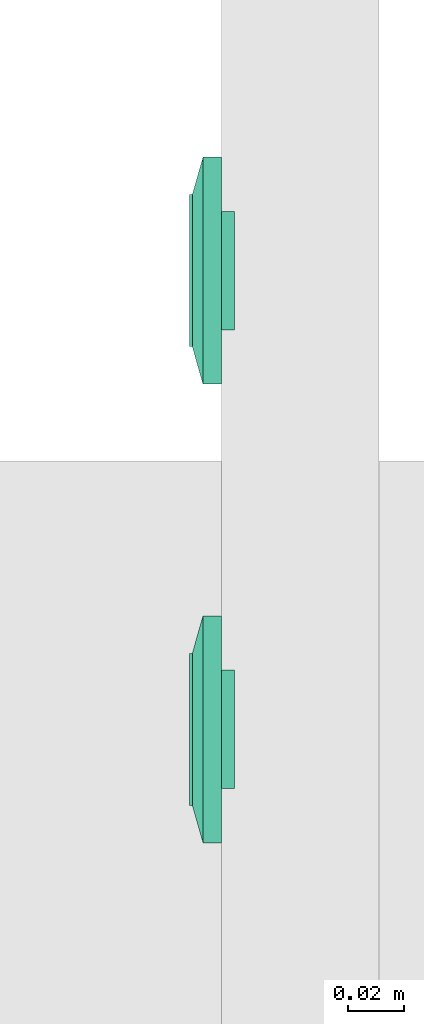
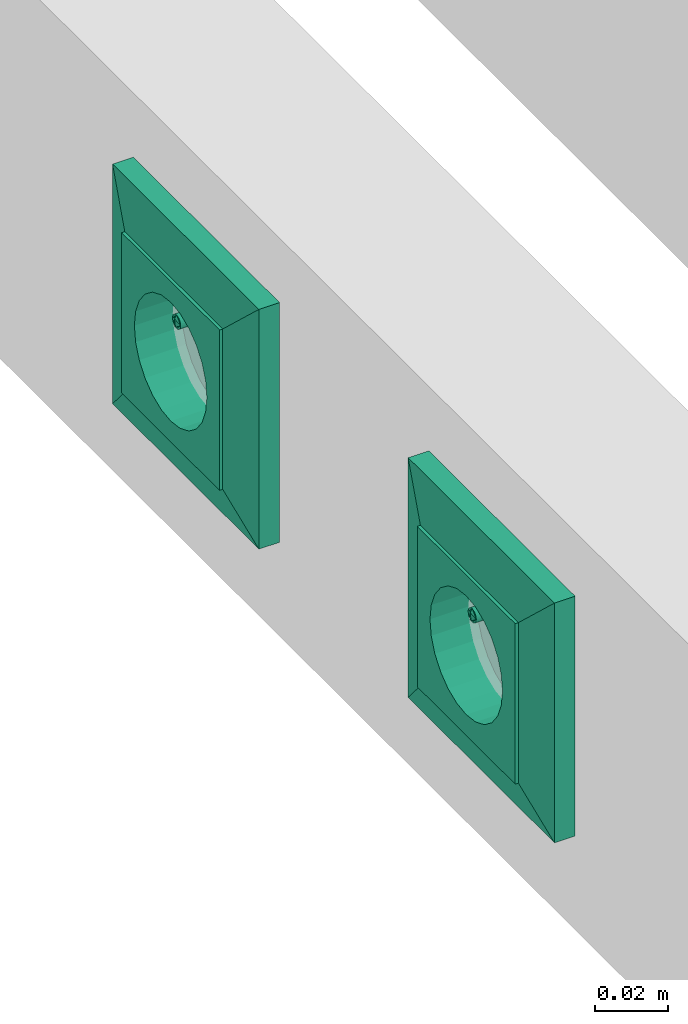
# One storey, part 48 of 166: 2 flow terminals.
"""IFC2X3 building model written with IfcOpenShell, lengths in metres."""

from ifc_helpers import new_model, entity, si_unit, converted_unit, derived_unit, direction, frame, origin, place, context, subcontext, project, spatial, face_set, surface_model, source, transform, mapped, type_object, type_shapes, element, save


model = new_model("IFC2X3")

# Units and contexts
model_context = context("Model", 3, precision=1e-05, world=origin(), true_north=direction((6.12303176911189e-17, 1.0)))
body_context = subcontext(model_context, "Body", "Model", "MODEL_VIEW")
ifc_project = project(units=[si_unit("LENGTHUNIT", "METRE"), si_unit("AREAUNIT", "SQUARE_METRE"), si_unit("VOLUMEUNIT", "CUBIC_METRE"), converted_unit("PLANEANGLEUNIT", "DEGREE", entity("IfcRatioMeasure", 0.0174532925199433), si_unit("PLANEANGLEUNIT", "RADIAN"), dimensions=[0, 0, 0, 0, 0, 0, 0]), si_unit("MASSUNIT", "GRAM", prefix="KILO"), derived_unit("MASSDENSITYUNIT", [(si_unit("MASSUNIT", "GRAM", prefix="KILO"), 1), (si_unit("LENGTHUNIT", "METRE"), -3)]), si_unit("TIMEUNIT", "SECOND"), si_unit("FREQUENCYUNIT", "HERTZ"), si_unit("THERMODYNAMICTEMPERATUREUNIT", "DEGREE_CELSIUS"), derived_unit("THERMALTRANSMITTANCEUNIT", [(si_unit("MASSUNIT", "GRAM", prefix="KILO"), 1), (si_unit("THERMODYNAMICTEMPERATUREUNIT", "KELVIN"), -1), (si_unit("TIMEUNIT", "SECOND"), -3)]), derived_unit("VOLUMETRICFLOWRATEUNIT", [(si_unit("LENGTHUNIT", "METRE"), 3), (si_unit("TIMEUNIT", "SECOND"), -1)]), si_unit("ELECTRICCURRENTUNIT", "AMPERE"), si_unit("ELECTRICVOLTAGEUNIT", "VOLT"), si_unit("POWERUNIT", "WATT"), si_unit("FORCEUNIT", "NEWTON"), si_unit("ILLUMINANCEUNIT", "LUX"), si_unit("LUMINOUSFLUXUNIT", "LUMEN"), si_unit("LUMINOUSINTENSITYUNIT", "CANDELA"), derived_unit("USERDEFINED", [(si_unit("MASSUNIT", "GRAM", prefix="KILO"), -1), (si_unit("LENGTHUNIT", "METRE"), -2), (si_unit("TIMEUNIT", "SECOND"), 3), (si_unit("LUMINOUSFLUXUNIT", "LUMEN"), 1)]), derived_unit("LINEARVELOCITYUNIT", [(si_unit("LENGTHUNIT", "METRE"), 1), (si_unit("TIMEUNIT", "SECOND"), -1)]), si_unit("PRESSUREUNIT", "PASCAL"), derived_unit("USERDEFINED", [(si_unit("LENGTHUNIT", "METRE"), -2), (si_unit("MASSUNIT", "GRAM", prefix="KILO"), 1), (si_unit("TIMEUNIT", "SECOND"), -2)])], contexts=[model_context])

# Site, building, storey
site_placement = place(None, origin())
site = spatial("IfcSite", under=ifc_project, at=site_placement, Name="Default", CompositionType="ELEMENT")
building_placement = place(site_placement, origin())
building = spatial("IfcBuilding", under=site, at=building_placement, CompositionType="ELEMENT")
storey_placement = place(building_placement, frame((0.0, 0.0, 4.27)))
storey = spatial("IfcBuildingStorey", under=building, at=storey_placement, Name="01", CompositionType="ELEMENT", Elevation=4.27)

# Flow terminals
light_fixture_type = type_object("IfcLightFixtureType", Name="PC IP20", PredefinedType="NOTDEFINED")
shared_shape = source(origin(), body_context, "Body", "SurfaceModel", [
    surface_model("IfcFaceBasedSurfaceModel", [(-0.00225000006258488, 0.0127499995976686, 0.00949633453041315), (0.0, 0.0104999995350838, 0.00949633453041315), (0.0, 0.0115376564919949, 0.0101656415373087), (0.0, 0.0139623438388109, 0.0101656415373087), (0.0, 0.0144589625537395, 0.00984531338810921), (0.0, 0.0121178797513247, 0.0102778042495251), (0.0, 0.0133821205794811, 0.0102778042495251), (0.0, 0.0127499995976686, 0.010399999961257), (0.0, 0.0149999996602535, 0.00949633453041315), (0.00225000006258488, 0.0127499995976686, 0.00949633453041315), (0.0, 0.0110410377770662, 0.00984531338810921), (0.0, 0.0127499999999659, 0.00949633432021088), (0.00225000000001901, 0.0127499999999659, 0.00949633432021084), (0.00217333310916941, 0.0121676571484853, 0.00949633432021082), (0.00194855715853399, 0.0116249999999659, 0.00949633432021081), (0.00159099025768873, 0.0111590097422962, 0.00949633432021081), (0.001125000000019, 0.010801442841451, 0.00949633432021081), (0.00058234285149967, 0.0105766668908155, 0.00949633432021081), (0.0, 0.0104999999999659, 0.00949633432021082), (-0.000582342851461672, 0.0105766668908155, 0.00949633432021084), (-0.001124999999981, 0.010801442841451, 0.00949633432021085), (-0.00159099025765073, 0.0111590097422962, 0.00949633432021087), (-0.00194855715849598, 0.011624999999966, 0.00949633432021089), (-0.0021733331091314, 0.0121676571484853, 0.00949633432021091), (-0.00224999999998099, 0.012749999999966, 0.00949633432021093), (-0.00217333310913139, 0.0133323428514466, 0.00949633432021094), (-0.00194855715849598, 0.013874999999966, 0.00949633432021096), (-0.00159099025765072, 0.0143409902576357, 0.00949633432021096), (-0.00112499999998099, 0.0146985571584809, 0.00949633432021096), (-0.00058234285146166, 0.0149233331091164, 0.00949633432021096), (0.0, 0.0149999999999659, 0.00949633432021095), (0.000582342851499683, 0.0149233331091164, 0.00949633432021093), (0.00112500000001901, 0.0146985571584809, 0.00949633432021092), (0.00159099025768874, 0.0143409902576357, 0.00949633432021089), (0.001948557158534, 0.0138749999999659, 0.00949633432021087), (0.00217333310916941, 0.0133323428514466, 0.00949633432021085), (0.00225000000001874, 0.0127499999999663, -0.00360000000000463), (0.00217333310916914, 0.0121676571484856, -0.00360000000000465), (0.00194855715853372, 0.0116249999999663, -0.00360000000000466), (0.00159099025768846, 0.0111590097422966, -0.00360000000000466), (0.00112500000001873, 0.0108014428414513, -0.00360000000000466), (0.000582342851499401, 0.0105766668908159, -0.00360000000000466), (0.0, 0.0104999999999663, -0.00360000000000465), (-0.000582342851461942, 0.0105766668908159, -0.00360000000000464), (-0.00112499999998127, 0.0108014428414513, -0.00360000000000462), (-0.001590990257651, 0.0111590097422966, -0.0036000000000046), (-0.00194855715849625, 0.0116249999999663, -0.00360000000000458), (-0.00217333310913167, 0.0121676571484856, -0.00360000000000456), (-0.00224999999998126, 0.0127499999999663, -0.00360000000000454), (-0.00217333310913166, 0.013332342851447, -0.00360000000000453), (-0.00194855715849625, 0.0138749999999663, -0.00360000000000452), (-0.00159099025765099, 0.014340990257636, -0.00360000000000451), (-0.00112499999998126, 0.0146985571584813, -0.00360000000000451), (-0.000582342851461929, 0.0149233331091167, -0.00360000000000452), (0.0, 0.0149999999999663, -0.00360000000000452), (0.000582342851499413, 0.0149233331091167, -0.00360000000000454), (0.00112500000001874, 0.0146985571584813, -0.00360000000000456), (0.00159099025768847, 0.014340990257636, -0.00360000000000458), (0.00194855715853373, 0.0138749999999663, -0.0036000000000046), (0.00217333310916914, 0.013332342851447, -0.00360000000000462), (0.0270000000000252, 0.026999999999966, 0.0113999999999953), (-0.0269999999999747, 0.026999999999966, 0.0113999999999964), (-0.0269999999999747, -0.0270000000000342, 0.0113999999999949), (0.0270000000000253, -0.0270000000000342, 0.0113999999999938), (-0.0199999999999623, 0.0, 0.0113999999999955), (-0.0193185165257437, -0.00517638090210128, 0.0113999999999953), (-0.0173205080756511, -0.0100000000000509, 0.0113999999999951), (-0.0141421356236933, -0.0141421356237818, 0.011399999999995), (-0.00999999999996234, -0.0173205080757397, 0.0113999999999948), (-0.00517638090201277, -0.0193185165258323, 0.0113999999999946), (0.0, -0.0200000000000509, 0.0113999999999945), (0.00517638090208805, -0.0193185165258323, 0.0113999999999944), (0.0100000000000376, -0.0173205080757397, 0.0113999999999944), (0.0141421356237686, -0.0141421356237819, 0.0113999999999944), (0.0173205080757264, -0.010000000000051, 0.0113999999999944), (0.0193185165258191, -0.00517638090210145, 0.0113999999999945), (0.0200000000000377, 0.0, 0.0113999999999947), (0.0193185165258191, 0.00517638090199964, 0.0113999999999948), (0.0173205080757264, 0.0099999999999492, 0.011399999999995), (0.0141421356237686, 0.0141421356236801, 0.0113999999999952), (0.0100000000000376, 0.0173205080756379, 0.0113999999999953), (0.00517638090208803, 0.0193185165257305, 0.0113999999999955), (0.0, 0.0199999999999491, 0.0113999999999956), (-0.00517638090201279, 0.0193185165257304, 0.0113999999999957), (-0.00999999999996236, 0.0173205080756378, 0.0113999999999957), (-0.0141421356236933, 0.01414213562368, 0.0113999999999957), (-0.0173205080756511, 0.00999999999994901, 0.0113999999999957), (-0.0193185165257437, 0.00517638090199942, 0.0113999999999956), (0.0270000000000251, 0.0269999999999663, 0.00199999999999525), (0.0270000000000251, -0.0270000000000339, 0.00199999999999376), (-0.0269999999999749, -0.0270000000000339, 0.00199999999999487), (-0.0269999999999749, 0.0269999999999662, 0.00199999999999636), (0.0210000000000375, 0.0, 0.00199999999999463), (0.0202844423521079, -0.00543519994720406, 0.00199999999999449), (0.0181865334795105, -0.0105000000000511, 0.0019999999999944), (0.0148492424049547, -0.0148492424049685, 0.00199999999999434), (0.0105000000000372, -0.0181865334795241, 0.00199999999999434), (0.0054351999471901, -0.0202844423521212, 0.00199999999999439), (0.0, -0.0210000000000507, 0.00199999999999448), (-0.00543519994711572, -0.020284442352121, 0.00199999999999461), (-0.0104999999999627, -0.0181865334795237, 0.00199999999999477), (-0.0148492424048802, -0.014849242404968, 0.00199999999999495), (-0.0181865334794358, -0.0105000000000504, 0.00199999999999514), (-0.020284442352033, -0.00543519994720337, 0.00199999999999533), (-0.0209999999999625, 0.0, 0.00199999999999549), (-0.0202844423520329, 0.0054351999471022, 0.00199999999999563), (-0.0181865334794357, 0.0104999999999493, 0.00199999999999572), (-0.01484924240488, 0.0148492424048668, 0.00199999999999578), (-0.0104999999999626, 0.0181865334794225, 0.00199999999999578), (-0.00543519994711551, 0.0202844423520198, 0.00199999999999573), (0.0, 0.0209999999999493, 0.00199999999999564), (0.00543519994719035, 0.0202844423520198, 0.00199999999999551), (0.0105000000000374, 0.0181865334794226, 0.00199999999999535), (0.0148492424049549, 0.0148492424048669, 0.00199999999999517), (0.0181865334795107, 0.0104999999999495, 0.00199999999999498), (0.0202844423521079, 0.00543519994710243, 0.00199999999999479), (0.0200000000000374, 0.0, -0.00360000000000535), (0.0193185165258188, -0.00517638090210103, -0.00360000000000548), (0.0173205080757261, -0.0100000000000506, -0.00360000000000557), (0.0141421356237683, -0.0141421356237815, -0.00360000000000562), (0.0100000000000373, -0.0173205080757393, -0.00360000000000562), (0.00517638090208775, -0.0193185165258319, -0.00360000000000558), (0.0, -0.0200000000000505, -0.00360000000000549), (-0.00517638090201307, -0.0193185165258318, -0.00360000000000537), (-0.00999999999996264, -0.0173205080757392, -0.00360000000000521), (-0.0141421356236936, -0.0141421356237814, -0.00360000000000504), (-0.0173205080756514, -0.0100000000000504, -0.00360000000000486), (-0.019318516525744, -0.00517638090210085, -0.00360000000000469), (-0.0199999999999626, 0.0, -0.00360000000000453), (-0.0193185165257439, 0.00517638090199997, -0.0036000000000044), (-0.0173205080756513, 0.00999999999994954, -0.00360000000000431), (-0.0141421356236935, 0.0141421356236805, -0.00360000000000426), (-0.00999999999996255, 0.0173205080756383, -0.00360000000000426), (-0.00517638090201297, 0.0193185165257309, -0.0036000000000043), (0.0, 0.0199999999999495, -0.00360000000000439), (0.00517638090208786, 0.0193185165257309, -0.00360000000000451), (0.0100000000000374, 0.0173205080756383, -0.00360000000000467), (0.0141421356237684, 0.0141421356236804, -0.00360000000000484), (0.0173205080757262, 0.0099999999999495, -0.00360000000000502), (0.0193185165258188, 0.00517638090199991, -0.00360000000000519), (-0.0123499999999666, 0.0, -0.00360000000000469), (-0.0122562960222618, -0.000711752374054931, -0.00360000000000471), (-0.0119815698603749, -0.00137500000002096, -0.00360000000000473), (-0.0115445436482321, -0.00194454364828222, -0.00360000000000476), (-0.0109749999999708, -0.00238156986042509, -0.00360000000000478), (-0.0103117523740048, -0.00265629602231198, -0.0036000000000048), (-0.00959999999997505, -0.00275000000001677, -0.00360000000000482), (-0.0088882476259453, -0.00265629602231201, -0.00360000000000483), (-0.00822499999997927, -0.00238156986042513, -0.00360000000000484), (-0.00765545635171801, -0.00194454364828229, -0.00360000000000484), (-0.00721843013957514, -0.00137500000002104, -0.00360000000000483), (-0.00694370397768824, -0.000711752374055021, -0.00360000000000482), (-0.00684999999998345, 0.0, -0.0036000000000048), (-0.00694370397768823, 0.000711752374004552, -0.00360000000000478), (-0.00721843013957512, 0.00137499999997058, -0.00360000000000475), (-0.00765545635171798, 0.00194454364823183, -0.00360000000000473), (-0.00822499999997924, 0.00238156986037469, -0.0036000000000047), (-0.00888824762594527, 0.00265629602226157, -0.00360000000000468), (-0.00959999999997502, 0.00274999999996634, -0.00360000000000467), (-0.0103117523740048, 0.00265629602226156, -0.00360000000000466), (-0.0109749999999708, 0.00238156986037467, -0.00360000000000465), (-0.011544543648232, 0.00194454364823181, -0.00360000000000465), (-0.0119815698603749, 0.00137499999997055, -0.00360000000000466), (-0.0122562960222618, 0.000711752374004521, -0.00360000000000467), (0.00685000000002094, 0.0, -0.00360000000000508), (0.0069437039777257, -0.00071175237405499, -0.0036000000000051), (0.00721843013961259, -0.00137500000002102, -0.00360000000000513), (0.00765545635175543, -0.00194454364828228, -0.00360000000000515), (0.00822500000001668, -0.00238156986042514, -0.00360000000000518), (0.00888824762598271, -0.00265629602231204, -0.0036000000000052), (0.00960000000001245, -0.00275000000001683, -0.00360000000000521), (0.0103117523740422, -0.00265629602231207, -0.00360000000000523), (0.0109750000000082, -0.00238156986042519, -0.00360000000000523), (0.0115445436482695, -0.00194454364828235, -0.00360000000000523), (0.0119815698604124, -0.0013750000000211, -0.00360000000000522), (0.0122562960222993, -0.00071175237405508, -0.00360000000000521), (0.012350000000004, 0.0, -0.00360000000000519), (0.0122562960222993, 0.000711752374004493, -0.00360000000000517), (0.0119815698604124, 0.00137499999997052, -0.00360000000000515), (0.0115445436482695, 0.00194454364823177, -0.00360000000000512), (0.0109750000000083, 0.00238156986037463, -0.0036000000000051), (0.0103117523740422, 0.00265629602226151, -0.00360000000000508), (0.00960000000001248, 0.00274999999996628, -0.00360000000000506), (0.00888824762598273, 0.0026562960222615, -0.00360000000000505), (0.0082250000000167, 0.00238156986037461, -0.00360000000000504), (0.00765545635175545, 0.00194454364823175, -0.00360000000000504), (0.0072184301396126, 0.00137499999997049, -0.00360000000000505), (0.00694370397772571, 0.000711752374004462, -0.00360000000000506), (0.0210000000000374, 0.0, -0.00460000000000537), (0.0202844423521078, -0.00543519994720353, -0.00460000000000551), (0.0181865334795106, -0.0105000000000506, -0.0046000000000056), (0.0148492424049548, -0.0148492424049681, -0.00460000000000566), (0.0105000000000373, -0.0181865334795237, -0.00460000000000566), (0.00543519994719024, -0.0202844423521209, -0.00460000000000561), (0.0, -0.0210000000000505, -0.00460000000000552), (-0.00543519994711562, -0.0202844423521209, -0.00460000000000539), (-0.0104999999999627, -0.0181865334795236, -0.00460000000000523), (-0.0148492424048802, -0.0148492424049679, -0.00460000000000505), (-0.0181865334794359, -0.0105000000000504, -0.00460000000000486), (-0.0202844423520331, -0.00543519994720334, -0.00460000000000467), (-0.0209999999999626, 0.0, -0.00460000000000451), (-0.020284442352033, 0.00543519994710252, -0.00460000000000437), (-0.0181865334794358, 0.0104999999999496, -0.00460000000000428), (-0.0148492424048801, 0.0148492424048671, -0.00460000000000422), (-0.0104999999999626, 0.0181865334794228, -0.00460000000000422), (-0.00543519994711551, 0.02028444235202, -0.00460000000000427), (0.0, 0.0209999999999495, -0.00460000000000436), (0.00543519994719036, 0.02028444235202, -0.00460000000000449), (0.0105000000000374, 0.0181865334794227, -0.00460000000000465), (0.0148492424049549, 0.014849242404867, -0.00460000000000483), (0.0181865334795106, 0.0104999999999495, -0.00460000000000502), (0.0202844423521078, 0.00543519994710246, -0.00460000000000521), (-0.00684999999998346, 0.0, -0.0046000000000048), (-0.00694370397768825, 0.000711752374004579, -0.00460000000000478), (-0.00721843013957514, 0.00137499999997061, -0.00460000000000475), (-0.007655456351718, 0.00194454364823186, -0.00460000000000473), (-0.00822499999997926, 0.00238156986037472, -0.0046000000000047), (-0.00888824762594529, 0.0026562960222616, -0.00460000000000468), (-0.00959999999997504, 0.00274999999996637, -0.00460000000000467), (-0.0103117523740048, 0.00265629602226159, -0.00460000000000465), (-0.0109749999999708, 0.0023815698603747, -0.00460000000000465), (-0.0115445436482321, 0.00194454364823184, -0.00460000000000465), (-0.0119815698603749, 0.00137499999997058, -0.00460000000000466), (-0.0122562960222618, 0.000711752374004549, -0.00460000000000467), (-0.0123499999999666, 0.0, -0.00460000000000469), (-0.0122562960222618, -0.000711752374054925, -0.00460000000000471), (-0.0119815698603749, -0.00137500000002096, -0.00460000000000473), (-0.0115445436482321, -0.00194454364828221, -0.00460000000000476), (-0.0109749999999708, -0.00238156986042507, -0.00460000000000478), (-0.0103117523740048, -0.00265629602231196, -0.0046000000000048), (-0.00959999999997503, -0.00275000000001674, -0.00460000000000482), (-0.00888824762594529, -0.00265629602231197, -0.00460000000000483), (-0.00822499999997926, -0.00238156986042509, -0.00460000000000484), (-0.007655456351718, -0.00194454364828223, -0.00460000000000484), (-0.00721843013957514, -0.00137500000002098, -0.00460000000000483), (-0.00694370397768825, -0.000711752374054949, -0.00460000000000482), (0.012350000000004, 0.0, -0.00460000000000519), (0.0122562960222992, 0.000711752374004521, -0.00460000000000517), (0.0119815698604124, 0.00137499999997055, -0.00460000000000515), (0.0115445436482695, 0.0019445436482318, -0.00460000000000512), (0.0109750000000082, 0.00238156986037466, -0.0046000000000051), (0.0103117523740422, 0.00265629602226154, -0.00460000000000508), (0.00960000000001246, 0.00274999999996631, -0.00460000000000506), (0.00888824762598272, 0.00265629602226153, -0.00460000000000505), (0.00822500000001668, 0.00238156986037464, -0.00460000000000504), (0.00765545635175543, 0.00194454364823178, -0.00460000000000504), (0.00721843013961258, 0.00137499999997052, -0.00460000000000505), (0.00694370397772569, 0.00071175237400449, -0.00460000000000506), (0.00685000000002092, 0.0, -0.00460000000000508), (0.00694370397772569, -0.000711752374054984, -0.0046000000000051), (0.00721843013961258, -0.00137500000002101, -0.00460000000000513), (0.00765545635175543, -0.00194454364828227, -0.00460000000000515), (0.00822500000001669, -0.00238156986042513, -0.00460000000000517), (0.00888824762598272, -0.00265629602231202, -0.0046000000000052), (0.00960000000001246, -0.0027500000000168, -0.00460000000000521), (0.0103117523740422, -0.00265629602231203, -0.00460000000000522), (0.0109750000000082, -0.00238156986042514, -0.00460000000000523), (0.0115445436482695, -0.00194454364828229, -0.00460000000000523), (0.0119815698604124, -0.00137500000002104, -0.00460000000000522), (0.0122562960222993, -0.000711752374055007, -0.00460000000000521), (0.040350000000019, 0.0403499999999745, 0.00659999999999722), (0.040350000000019, -0.0403500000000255, 0.00659999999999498), (-0.0403499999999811, -0.0403500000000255, 0.00659999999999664), (-0.0403499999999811, 0.0403499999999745, 0.00659999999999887), (0.027000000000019, 0.0269999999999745, 0.00659999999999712), (-0.0269999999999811, 0.0269999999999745, 0.00659999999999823), (-0.026999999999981, -0.0270000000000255, 0.00659999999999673), (0.027000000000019, -0.0270000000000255, 0.00659999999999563), (0.027000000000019, 0.0269999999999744, 0.0103999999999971), (-0.026999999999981, 0.0269999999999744, 0.0103999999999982), (-0.026999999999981, -0.0270000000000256, 0.0103999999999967), (0.027000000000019, -0.0270000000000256, 0.0103999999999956), (0.040350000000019, 0.0403499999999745, 0.00659999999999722), (0.040350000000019, -0.0403500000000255, 0.00659999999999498), (-0.0403499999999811, -0.0403500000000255, 0.00659999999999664), (-0.0403499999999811, 0.0403499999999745, 0.00659999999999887), (-0.0269999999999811, 0.0269999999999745, 0.00659999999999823), (-0.0269999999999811, -0.0270000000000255, 0.00659999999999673), (0.0270000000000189, -0.0270000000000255, 0.00659999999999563), (0.0270000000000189, 0.0269999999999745, 0.00659999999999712), (0.0403500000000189, 0.0403499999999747, 0.0), (0.0403500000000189, -0.0403500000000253, 0.0), (-0.0403499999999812, -0.0403500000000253, 0.0), (-0.0403499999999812, 0.0403499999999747, 0.0), (0.0270000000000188, 0.0269999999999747, 0.0), (-0.0269999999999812, 0.0269999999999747, 0.0), (-0.0269999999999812, -0.0270000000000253, 0.0), (0.0270000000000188, -0.0270000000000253, 0.0)], [face_set([[[0, 1, 2]], [[3, 4, 2, 5]], [[6, 3, 5, 7]], [[2, 4, 0]], [[4, 8, 0]], [[3, 9, 8]], [[1, 9, 10]], [[2, 3, 6, 7]], [[3, 10, 9]], [[2, 10, 3]], [[11, 1, 0, 8]], [[11, 8, 9, 1]]]), face_set([[[12, 13, 14, 15, 16, 17, 18, 19, 20, 21, 22, 23, 24, 25, 26, 27, 28, 29, 30, 31, 32, 33, 34, 35]], [[36, 37, 38, 39, 40, 41, 42, 43, 44, 45, 46, 47, 48, 49, 50, 51, 52, 53, 54, 55, 56, 57, 58, 59]], [[48, 47, 23, 24]], [[47, 46, 22, 23]], [[45, 44, 20, 21]], [[46, 45, 21, 22]], [[44, 43, 19, 20]], [[18, 19, 43, 42]], [[42, 41, 17, 18]], [[41, 40, 16, 17]], [[39, 38, 14, 15]], [[40, 39, 15, 16]], [[38, 37, 13, 14]], [[12, 13, 37, 36]], [[36, 59, 35, 12]], [[59, 58, 34, 35]], [[57, 56, 32, 33]], [[58, 57, 33, 34]], [[56, 55, 31, 32]], [[30, 31, 55, 54]], [[54, 53, 29, 30]], [[53, 52, 28, 29]], [[51, 50, 26, 27]], [[52, 51, 27, 28]], [[50, 49, 25, 26]], [[24, 25, 49, 48]]]), face_set([[[60, 61, 62, 63], [64, 65, 66, 67, 68, 69, 70, 71, 72, 73, 74, 75, 76, 77, 78, 79, 80, 81, 82, 83, 84, 85, 86, 87]], [[88, 89, 90, 91], [92, 93, 94, 95, 96, 97, 98, 99, 100, 101, 102, 103, 104, 105, 106, 107, 108, 109, 110, 111, 112, 113, 114, 115]], [[61, 60, 88, 91]], [[62, 61, 91, 90]], [[63, 62, 90, 89]], [[60, 63, 89, 88]], [[116, 117, 118, 119, 120, 121, 122, 123, 124, 125, 126, 127, 128, 129, 130, 131, 132, 133, 134, 135, 136, 137, 138, 139], [140, 141, 142, 143, 144, 145, 146, 147, 148, 149, 150, 151, 152, 153, 154, 155, 156, 157, 158, 159, 160, 161, 162, 163], [164, 165, 166, 167, 168, 169, 170, 171, 172, 173, 174, 175, 176, 177, 178, 179, 180, 181, 182, 183, 184, 185, 186, 187]], [[64, 128, 127, 65]], [[65, 127, 126, 66]], [[67, 125, 124, 68]], [[66, 126, 125, 67]], [[68, 124, 123, 69]], [[122, 70, 69, 123]], [[70, 122, 121, 71]], [[71, 121, 120, 72]], [[73, 119, 118, 74]], [[72, 120, 119, 73]], [[74, 118, 117, 75]], [[116, 76, 75, 117]], [[76, 116, 139, 77]], [[77, 139, 138, 78]], [[79, 137, 136, 80]], [[78, 138, 137, 79]], [[80, 136, 135, 81]], [[134, 82, 81, 135]], [[82, 134, 133, 83]], [[83, 133, 132, 84]], [[84, 132, 131, 85]], [[85, 131, 130, 86]], [[130, 129, 87, 86]], [[64, 87, 129, 128]], [[188, 189, 190, 191, 192, 193, 194, 195, 196, 197, 198, 199, 200, 201, 202, 203, 204, 205, 206, 207, 208, 209, 210, 211], [212, 213, 214, 215, 216, 217, 218, 219, 220, 221, 222, 223, 224, 225, 226, 227, 228, 229, 230, 231, 232, 233, 234, 235], [236, 237, 238, 239, 240, 241, 242, 243, 244, 245, 246, 247, 248, 249, 250, 251, 252, 253, 254, 255, 256, 257, 258, 259]], [[200, 199, 103, 104]], [[199, 198, 102, 103]], [[197, 196, 100, 101]], [[198, 197, 101, 102]], [[196, 195, 99, 100]], [[98, 99, 195, 194]], [[194, 193, 97, 98]], [[193, 192, 96, 97]], [[191, 190, 94, 95]], [[192, 191, 95, 96]], [[190, 189, 93, 94]], [[92, 93, 189, 188]], [[188, 211, 115, 92]], [[211, 210, 114, 115]], [[209, 208, 112, 113]], [[210, 209, 113, 114]], [[208, 207, 111, 112]], [[110, 111, 207, 206]], [[206, 205, 109, 110]], [[205, 204, 108, 109]], [[203, 202, 106, 107]], [[204, 203, 107, 108]], [[202, 201, 105, 106]], [[104, 105, 201, 200]], [[141, 225, 226, 142]], [[140, 224, 225, 141]], [[144, 228, 229, 145]], [[143, 227, 228, 144]], [[142, 226, 227, 143]], [[230, 146, 145, 229]], [[149, 233, 232, 148]], [[148, 232, 231, 147]], [[152, 212, 235, 151]], [[151, 235, 234, 150]], [[150, 234, 233, 149]], [[146, 230, 231, 147]], [[154, 214, 213, 153]], [[153, 213, 212, 152]], [[157, 217, 216, 156]], [[156, 216, 215, 155]], [[155, 215, 214, 154]], [[218, 158, 157, 217]], [[160, 220, 221, 161]], [[159, 219, 220, 160]], [[163, 223, 224, 140]], [[162, 222, 223, 163]], [[161, 221, 222, 162]], [[158, 218, 219, 159]], [[166, 250, 249, 165]], [[165, 249, 248, 164]], [[169, 253, 252, 168]], [[168, 252, 251, 167]], [[167, 251, 250, 166]], [[254, 170, 169, 253]], [[172, 256, 257, 173]], [[171, 255, 256, 172]], [[175, 259, 236, 176]], [[174, 258, 259, 175]], [[173, 257, 258, 174]], [[170, 254, 255, 171]], [[177, 237, 238, 178]], [[176, 236, 237, 177]], [[180, 240, 241, 181]], [[179, 239, 240, 180]], [[178, 238, 239, 179]], [[242, 182, 181, 241]], [[185, 245, 244, 184]], [[184, 244, 243, 183]], [[164, 248, 247, 187]], [[187, 247, 246, 186]], [[186, 246, 245, 185]], [[182, 242, 243, 183]]]), face_set([[[260, 261, 262, 263], [264, 265, 266, 267]], [[260, 268, 269, 263]], [[263, 269, 270, 262]], [[262, 270, 271, 261]], [[261, 271, 268, 260]], [[264, 265, 269, 268]], [[265, 266, 270, 269]], [[266, 267, 271, 270]], [[268, 271, 267, 264]]]), face_set([[[272, 273, 274, 275], [276, 277, 278, 279]], [[280, 281, 282, 283], [284, 285, 286, 287]], [[275, 272, 280, 283]], [[274, 275, 283, 282]], [[273, 274, 282, 281]], [[272, 273, 281, 280]], [[284, 285, 276, 279]], [[285, 286, 277, 276]], [[286, 287, 278, 277]], [[279, 278, 287, 284]]])]),
])
type_shapes(light_fixture_type, [shared_shape])
for number, where, z_axis, x_axis in (
    (1, (33.3667436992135, -189.178719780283, 4.70800000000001), (-1.0, 0.0, 0.0), (0.0, -1.0, 0.0)),
    (2, (33.3667436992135, -189.341719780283, 4.70800000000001), (-1.0, 0.0, 0.0), (0.0, -1.0, 0.0)),
):
    element("IfcFlowTerminal", number, at=place(building_placement, frame(where, z_axis=z_axis, x_axis=x_axis)), inside=storey, type_object=light_fixture_type, Name="INT Prise de courant:PC IP20", ObjectType="INT Prise de courant:PC IP20", context=body_context, shape_type="MappedRepresentation", body=[
        mapped(shared_shape, transform((0.0, 0.0, 0.0), scale=1.0)),
    ])

save(model, "model.ifc")
